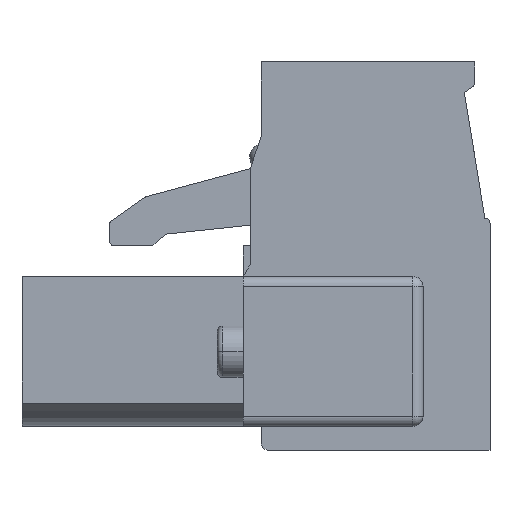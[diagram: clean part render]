
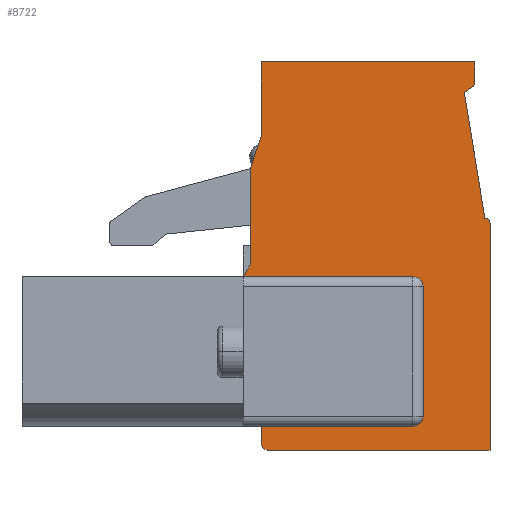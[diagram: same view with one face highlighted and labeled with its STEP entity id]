
A CAD part, left-side view. The second image highlights one B-rep face of the part: STEP entity #8722.
In plain terms, the highlighted planar face has unit normal (-1, 0, 0).
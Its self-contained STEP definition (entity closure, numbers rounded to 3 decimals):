
#283=DIRECTION('',(0.,1.,0.));
#284=VECTOR('',#283,8.3);
#285=CARTESIAN_POINT('',(14.55,0.6,0.));
#286=LINE('',#285,#284);
#302=DIRECTION('',(0.,0.,1.));
#303=VECTOR('',#302,0.8);
#304=CARTESIAN_POINT('',(14.55,0.6,-0.8));
#305=LINE('',#304,#303);
#314=CARTESIAN_POINT('',(14.55,1.,-1.201));
#345=DIRECTION('',(0.,0.,1.));
#346=VECTOR('',#345,8.825);
#347=CARTESIAN_POINT('',(14.55,0.,-15.1));
#348=LINE('',#347,#346);
#841=DIRECTION('',(0.,0.,-1.));
#842=VECTOR('',#841,0.625);
#843=CARTESIAN_POINT('',(14.55,8.9,-14.175));
#844=LINE('',#843,#842);
#849=DIRECTION('',(0.,1.,0.));
#850=VECTOR('',#849,5.9);
#851=CARTESIAN_POINT('',(14.55,3.,-14.175));
#852=LINE('',#851,#850);
#1320=DIRECTION('',(0.,0.,-1.));
#1321=VECTOR('',#1320,3.75);
#1322=CARTESIAN_POINT('',(14.55,9.3,-4.1));
#1323=LINE('',#1322,#1321);
#1462=DIRECTION('',(0.,0.,-1.));
#1463=VECTOR('',#1462,2.9);
#1464=CARTESIAN_POINT('',(14.55,8.9,0.));
#1465=LINE('',#1464,#1463);
#1474=CARTESIAN_POINT('',(14.55,8.6,-14.8));
#1475=DIRECTION('',(1.,0.,0.));
#1476=DIRECTION('',(0.,0.,-1.));
#1477=AXIS2_PLACEMENT_3D('',#1474,#1475,#1476);
#1479=CARTESIAN_POINT('',(14.55,3.,-13.775));
#1480=DIRECTION('',(-1.,0.,0.));
#1481=DIRECTION('',(0.,0.,-1.));
#1482=AXIS2_PLACEMENT_3D('',#1479,#1480,#1481);
#1484=CARTESIAN_POINT('',(14.55,3.,-8.75));
#1485=DIRECTION('',(-1.,0.,0.));
#1486=DIRECTION('',(0.,-1.,0.));
#1487=AXIS2_PLACEMENT_3D('',#1484,#1485,#1486);
#1489=DIRECTION('',(0.,-0.514,0.857));
#1490=VECTOR('',#1489,0.583);
#1491=CARTESIAN_POINT('',(14.55,9.6,-8.35));
#1492=LINE('',#1491,#1490);
#1493=DIRECTION('',(0.,-0.316,0.949));
#1494=VECTOR('',#1493,1.265);
#1495=CARTESIAN_POINT('',(14.55,9.3,-4.1));
#1496=LINE('',#1495,#1494);
#1497=CARTESIAN_POINT('',(14.55,0.8,-0.8));
#1498=DIRECTION('',(1.,0.,0.));
#1499=DIRECTION('',(0.,-1.,0.));
#1500=AXIS2_PLACEMENT_3D('',#1497,#1498,#1499);
#1502=DIRECTION('',(0.,0.799,-0.602));
#1503=VECTOR('',#1502,0.401);
#1504=CARTESIAN_POINT('',(14.55,0.68,-0.96));
#1505=LINE('',#1504,#1503);
#1506=DIRECTION('',(0.,-0.162,-0.987));
#1507=VECTOR('',#1506,4.939);
#1508=CARTESIAN_POINT('',(14.55,1.,-1.201));
#1509=LINE('',#1508,#1507);
#1510=CARTESIAN_POINT('',(14.55,0.2,-6.275));
#1511=DIRECTION('',(1.,0.,0.));
#1512=DIRECTION('',(0.,0.,1.));
#1513=AXIS2_PLACEMENT_3D('',#1510,#1511,#1512);
#1570=DIRECTION('',(0.,-1.,0.));
#1571=VECTOR('',#1570,6.6);
#1572=CARTESIAN_POINT('',(14.55,9.6,-8.35));
#1573=LINE('',#1572,#1571);
#1582=DIRECTION('',(0.,0.,-1.));
#1583=VECTOR('',#1582,5.025);
#1584=CARTESIAN_POINT('',(14.55,2.6,-8.75));
#1585=LINE('',#1584,#1583);
#2687=DIRECTION('',(0.,-1.,0.));
#2688=VECTOR('',#2687,8.6);
#2689=CARTESIAN_POINT('',(14.55,8.6,-15.1));
#2690=LINE('',#2689,#2688);
#5453=CARTESIAN_POINT('',(14.55,3.,-14.175));
#5454=VERTEX_POINT('',#5453);
#5455=CARTESIAN_POINT('',(14.55,8.9,-14.175));
#5456=VERTEX_POINT('',#5455);
#5604=CARTESIAN_POINT('',(14.55,9.3,-4.1));
#5606=VERTEX_POINT('',#5604);
#5607=CARTESIAN_POINT('',(14.55,9.3,-7.85));
#5608=VERTEX_POINT('',#5607);
#5641=CARTESIAN_POINT('',(14.55,8.9,-2.9));
#5642=VERTEX_POINT('',#5641);
#5682=CARTESIAN_POINT('',(14.55,8.9,0.));
#5684=VERTEX_POINT('',#5682);
#5686=CARTESIAN_POINT('',(14.55,0.6,0.));
#5688=VERTEX_POINT('',#5686);
#5725=CARTESIAN_POINT('',(14.55,0.6,-0.8));
#5727=VERTEX_POINT('',#5725);
#5730=CARTESIAN_POINT('',(14.55,0.68,-0.96));
#5732=VERTEX_POINT('',#5730);
#5737=VERTEX_POINT('',#314);
#5816=CARTESIAN_POINT('',(14.55,0.,-15.1));
#5817=VERTEX_POINT('',#5816);
#5818=CARTESIAN_POINT('',(14.55,0.,-6.275));
#5819=VERTEX_POINT('',#5818);
#5912=CARTESIAN_POINT('',(14.55,0.2,-6.075));
#5913=VERTEX_POINT('',#5912);
#5914=CARTESIAN_POINT('',(14.55,8.6,-15.1));
#5915=CARTESIAN_POINT('',(14.55,8.9,-14.8));
#5916=VERTEX_POINT('',#5914);
#5917=VERTEX_POINT('',#5915);
#5918=CARTESIAN_POINT('',(14.55,2.6,-13.775));
#5919=VERTEX_POINT('',#5918);
#5920=CARTESIAN_POINT('',(14.55,2.6,-8.75));
#5921=VERTEX_POINT('',#5920);
#5922=CARTESIAN_POINT('',(14.55,3.,-8.35));
#5923=VERTEX_POINT('',#5922);
#5924=CARTESIAN_POINT('',(14.55,9.6,-8.35));
#5925=VERTEX_POINT('',#5924);
#8690=CARTESIAN_POINT('',(14.55,0.,-15.1));
#8691=DIRECTION('',(1.,0.,0.));
#8692=DIRECTION('',(0.,-1.,0.));
#8693=AXIS2_PLACEMENT_3D('',#8690,#8691,#8692);
#8694=PLANE('',#8693);
#8695=ORIENTED_EDGE('',*,*,#8086,.T.);
#8696=ORIENTED_EDGE('',*,*,#8101,.F.);
#8697=ORIENTED_EDGE('',*,*,#8121,.F.);
#8699=ORIENTED_EDGE('',*,*,#8698,.T.);
#8701=ORIENTED_EDGE('',*,*,#8700,.F.);
#8703=ORIENTED_EDGE('',*,*,#8702,.T.);
#8705=ORIENTED_EDGE('',*,*,#8704,.F.);
#8707=ORIENTED_EDGE('',*,*,#8706,.T.);
#8708=ORIENTED_EDGE('',*,*,#8504,.F.);
#8709=ORIENTED_EDGE('',*,*,#8555,.T.);
#8710=ORIENTED_EDGE('',*,*,#8677,.F.);
#8711=ORIENTED_EDGE('',*,*,#7298,.F.);
#8712=ORIENTED_EDGE('',*,*,#7355,.F.);
#8713=ORIENTED_EDGE('',*,*,#7370,.T.);
#8714=ORIENTED_EDGE('',*,*,#7386,.T.);
#8715=ORIENTED_EDGE('',*,*,#7403,.T.);
#8716=ORIENTED_EDGE('',*,*,#7418,.T.);
#8717=ORIENTED_EDGE('',*,*,#7449,.F.);
#8719=ORIENTED_EDGE('',*,*,#8718,.F.);
#8720=EDGE_LOOP('',(#8695,#8696,#8697,#8699,#8701,#8703,#8705,#8707,#8708,#8709,
#8710,#8711,#8712,#8713,#8714,#8715,#8716,#8717,#8719));
#8721=FACE_OUTER_BOUND('',#8720,.F.);
#8722=ADVANCED_FACE('',(#8721),#8694,.F.);
#1478=CIRCLE('',#1477,0.3);
#1483=CIRCLE('',#1482,0.4);
#1488=CIRCLE('',#1487,0.4);
#1501=CIRCLE('',#1500,0.2);
#1514=CIRCLE('',#1513,0.2);
#7298=EDGE_CURVE('',#5688,#5684,#286,.T.);
#7355=EDGE_CURVE('',#5727,#5688,#305,.T.);
#7370=EDGE_CURVE('',#5727,#5732,#1501,.T.);
#7386=EDGE_CURVE('',#5732,#5737,#1505,.T.);
#7403=EDGE_CURVE('',#5737,#5913,#1509,.T.);
#7418=EDGE_CURVE('',#5913,#5819,#1514,.T.);
#7449=EDGE_CURVE('',#5817,#5819,#348,.T.);
#8086=EDGE_CURVE('',#5916,#5917,#1478,.T.);
#8101=EDGE_CURVE('',#5456,#5917,#844,.T.);
#8121=EDGE_CURVE('',#5454,#5456,#852,.T.);
#8504=EDGE_CURVE('',#5606,#5608,#1323,.T.);
#8555=EDGE_CURVE('',#5606,#5642,#1496,.T.);
#8677=EDGE_CURVE('',#5684,#5642,#1465,.T.);
#8698=EDGE_CURVE('',#5454,#5919,#1483,.T.);
#8700=EDGE_CURVE('',#5921,#5919,#1585,.T.);
#8702=EDGE_CURVE('',#5921,#5923,#1488,.T.);
#8704=EDGE_CURVE('',#5925,#5923,#1573,.T.);
#8706=EDGE_CURVE('',#5925,#5608,#1492,.T.);
#8718=EDGE_CURVE('',#5916,#5817,#2690,.T.);
